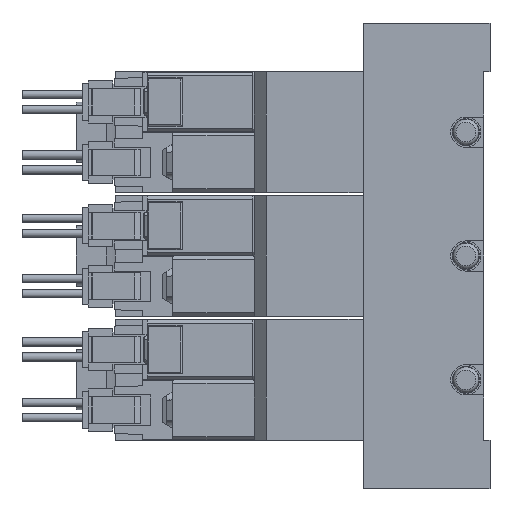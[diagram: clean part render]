
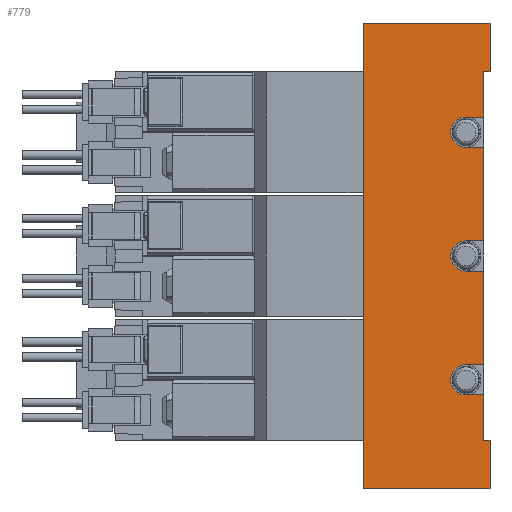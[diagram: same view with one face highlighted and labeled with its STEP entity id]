
A CAD part, left-side view. The second image highlights one B-rep face of the part: STEP entity #779.
In plain terms, the highlighted planar face has unit normal (-1, 0, 0) as drawn and (1, 0, 0) by its records, which use the part's own axes.
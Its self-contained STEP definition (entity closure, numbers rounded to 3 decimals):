
#779=ADVANCED_FACE('',(#1662),#1663,.F.);
#1662=FACE_OUTER_BOUND('',#2643,.T.);
#1663=PLANE('',#2644);
#2643=EDGE_LOOP('',(#5912,#5913,#5914,#5915,#5916,#5917,#5918,#5919,#5920,#5921,#5922,#5923,#5924,#5925,#5926,#5927,#5928,#5929,#5930,#5931));
#2644=AXIS2_PLACEMENT_3D('',#5932,#5933,#5934);
#5912=ORIENTED_EDGE('',*,*,#7305,.T.);
#5913=ORIENTED_EDGE('',*,*,#7306,.T.);
#5914=ORIENTED_EDGE('',*,*,#7307,.F.);
#5915=ORIENTED_EDGE('',*,*,#7308,.F.);
#5916=ORIENTED_EDGE('',*,*,#7309,.T.);
#5917=ORIENTED_EDGE('',*,*,#7294,.T.);
#5918=ORIENTED_EDGE('',*,*,#7310,.T.);
#5919=ORIENTED_EDGE('',*,*,#7311,.F.);
#5920=ORIENTED_EDGE('',*,*,#7267,.F.);
#5921=ORIENTED_EDGE('',*,*,#7312,.F.);
#5922=ORIENTED_EDGE('',*,*,#7313,.T.);
#5923=ORIENTED_EDGE('',*,*,#7314,.F.);
#5924=ORIENTED_EDGE('',*,*,#7315,.F.);
#5925=ORIENTED_EDGE('',*,*,#7316,.F.);
#5926=ORIENTED_EDGE('',*,*,#7317,.T.);
#5927=ORIENTED_EDGE('',*,*,#7269,.F.);
#5928=ORIENTED_EDGE('',*,*,#7318,.F.);
#5929=ORIENTED_EDGE('',*,*,#7319,.F.);
#5930=ORIENTED_EDGE('',*,*,#7320,.T.);
#5931=ORIENTED_EDGE('',*,*,#7321,.T.);
#5932=CARTESIAN_POINT('',(17.5,1.0,38.5));
#5933=DIRECTION('',(-1.0,0.0,0.0));
#5934=DIRECTION('',(0.0,0.0,1.0));
#7267=EDGE_CURVE('',#9011,#9013,#9014,.T.);
#7269=EDGE_CURVE('',#9016,#9017,#9018,.T.);
#7294=EDGE_CURVE('',#9066,#9063,#9067,.T.);
#7305=EDGE_CURVE('',#9086,#9087,#9088,.T.);
#7306=EDGE_CURVE('',#9087,#9089,#9090,.T.);
#7307=EDGE_CURVE('',#9091,#9089,#9092,.T.);
#7308=EDGE_CURVE('',#9093,#9091,#9094,.T.);
#7309=EDGE_CURVE('',#9093,#9066,#9095,.T.);
#7310=EDGE_CURVE('',#9063,#9096,#9097,.T.);
#7311=EDGE_CURVE('',#9013,#9096,#9098,.T.);
#7312=EDGE_CURVE('',#9099,#9011,#9100,.T.);
#7313=EDGE_CURVE('',#9099,#9101,#9102,.T.);
#7314=EDGE_CURVE('',#9103,#9101,#9104,.T.);
#7315=EDGE_CURVE('',#9105,#9103,#9106,.T.);
#7316=EDGE_CURVE('',#9107,#9105,#9108,.T.);
#7317=EDGE_CURVE('',#9107,#9017,#9109,.T.);
#7318=EDGE_CURVE('',#9110,#9016,#9111,.T.);
#7319=EDGE_CURVE('',#9112,#9110,#9113,.T.);
#7320=EDGE_CURVE('',#9112,#9114,#9115,.T.);
#7321=EDGE_CURVE('',#9114,#9086,#9116,.T.);
#9011=VERTEX_POINT('',#11897);
#9013=VERTEX_POINT('',#11900);
#9014=CIRCLE('',#11901,2.5);
#9016=VERTEX_POINT('',#11904);
#9017=VERTEX_POINT('',#11905);
#9018=LINE('',#11906,#11907);
#9063=VERTEX_POINT('',#11962);
#9066=VERTEX_POINT('',#11966);
#9067=LINE('',#11967,#11968);
#9086=VERTEX_POINT('',#12078);
#9087=VERTEX_POINT('',#12079);
#9088=LINE('',#12080,#12081);
#9089=VERTEX_POINT('',#12082);
#9090=LINE('',#12083,#12084);
#9091=VERTEX_POINT('',#12085);
#9092=LINE('',#12086,#12087);
#9093=VERTEX_POINT('',#12088);
#9094=LINE('',#12089,#12090);
#9095=LINE('',#12091,#12092);
#9096=VERTEX_POINT('',#12093);
#9097=LINE('',#12094,#12095);
#9098=LINE('',#12096,#12097);
#9099=VERTEX_POINT('',#12098);
#9100=LINE('',#12099,#12100);
#9101=VERTEX_POINT('',#12101);
#9102=LINE('',#12102,#12103);
#9103=VERTEX_POINT('',#12104);
#9104=LINE('',#12105,#12106);
#9105=VERTEX_POINT('',#12107);
#9106=CIRCLE('',#12108,2.5);
#9107=VERTEX_POINT('',#12109);
#9108=LINE('',#12110,#12111);
#9109=LINE('',#12112,#12113);
#9110=VERTEX_POINT('',#12114);
#9111=CIRCLE('',#12115,2.5);
#9112=VERTEX_POINT('',#12116);
#9113=LINE('',#12117,#12118);
#9114=VERTEX_POINT('',#12119);
#9115=LINE('',#12120,#12121);
#9116=LINE('',#12122,#12123);
#11897=CARTESIAN_POINT('',(17.5,4.0,18.0));
#11900=CARTESIAN_POINT('',(17.5,4.0,23.0));
#11901=AXIS2_PLACEMENT_3D('',#13451,#13452,#13453);
#11904=CARTESIAN_POINT('',(17.5,4.0,-18.0));
#11905=CARTESIAN_POINT('',(17.5,1.0,-18.0));
#11906=CARTESIAN_POINT('',(17.5,1.0,-18.0));
#11907=VECTOR('',#13455,1.0);
#11962=CARTESIAN_POINT('',(17.5,1.0,30.5));
#11966=CARTESIAN_POINT('',(17.5,0.0,30.5));
#11967=CARTESIAN_POINT('',(17.5,0.0,30.5));
#11968=VECTOR('',#13506,1.0);
#12078=CARTESIAN_POINT('',(17.5,0.0,-30.5));
#12079=CARTESIAN_POINT('',(17.5,0.0,-38.5));
#12080=CARTESIAN_POINT('',(17.5,0.0,-30.5));
#12081=VECTOR('',#13525,1.0);
#12082=CARTESIAN_POINT('',(17.5,21.0,-38.5));
#12083=CARTESIAN_POINT('',(17.5,1.0,-38.5));
#12084=VECTOR('',#13526,1.0);
#12085=CARTESIAN_POINT('',(17.5,21.0,38.5));
#12086=CARTESIAN_POINT('',(17.5,21.0,38.5));
#12087=VECTOR('',#13527,1.0);
#12088=CARTESIAN_POINT('',(17.5,0.0,38.5));
#12089=CARTESIAN_POINT('',(17.5,1.0,38.5));
#12090=VECTOR('',#13528,1.0);
#12091=CARTESIAN_POINT('',(17.5,0.0,38.5));
#12092=VECTOR('',#13529,1.0);
#12093=CARTESIAN_POINT('',(17.5,1.0,23.0));
#12094=CARTESIAN_POINT('',(17.5,1.0,38.5));
#12095=VECTOR('',#13530,1.0);
#12096=CARTESIAN_POINT('',(17.5,1.0,23.0));
#12097=VECTOR('',#13531,1.0);
#12098=CARTESIAN_POINT('',(17.5,1.0,18.0));
#12099=CARTESIAN_POINT('',(17.5,1.0,18.0));
#12100=VECTOR('',#13532,1.0);
#12101=CARTESIAN_POINT('',(17.5,1.0,2.5));
#12102=CARTESIAN_POINT('',(17.5,1.0,38.5));
#12103=VECTOR('',#13533,1.0);
#12104=CARTESIAN_POINT('',(17.5,4.0,2.5));
#12105=CARTESIAN_POINT('',(17.5,1.0,2.5));
#12106=VECTOR('',#13534,1.0);
#12107=CARTESIAN_POINT('',(17.5,4.0,-2.5));
#12108=AXIS2_PLACEMENT_3D('',#13535,#13536,#13537);
#12109=CARTESIAN_POINT('',(17.5,1.0,-2.5));
#12110=CARTESIAN_POINT('',(17.5,1.0,-2.5));
#12111=VECTOR('',#13538,1.0);
#12112=CARTESIAN_POINT('',(17.5,1.0,38.5));
#12113=VECTOR('',#13539,1.0);
#12114=CARTESIAN_POINT('',(17.5,4.0,-23.0));
#12115=AXIS2_PLACEMENT_3D('',#13540,#13541,#13542);
#12116=CARTESIAN_POINT('',(17.5,1.0,-23.0));
#12117=CARTESIAN_POINT('',(17.5,1.0,-23.0));
#12118=VECTOR('',#13543,1.0);
#12119=CARTESIAN_POINT('',(17.5,1.0,-30.5));
#12120=CARTESIAN_POINT('',(17.5,1.0,38.5));
#12121=VECTOR('',#13544,1.0);
#12122=CARTESIAN_POINT('',(17.5,4.0,-30.5));
#12123=VECTOR('',#13545,1.0);
#13451=CARTESIAN_POINT('',(17.5,4.0,20.5));
#13452=DIRECTION('',(1.0,0.0,-0.0));
#13453=DIRECTION('',(0.0,0.0,1.0));
#13455=DIRECTION('',(0.0,-1.0,0.0));
#13506=DIRECTION('',(0.0,1.0,0.0));
#13525=DIRECTION('',(0.0,0.0,-1.0));
#13526=DIRECTION('',(0.0,1.0,0.0));
#13527=DIRECTION('',(0.0,0.0,-1.0));
#13528=DIRECTION('',(0.0,1.0,0.0));
#13529=DIRECTION('',(0.0,0.0,-1.0));
#13530=DIRECTION('',(0.0,0.0,-1.0));
#13531=DIRECTION('',(0.0,-1.0,0.0));
#13532=DIRECTION('',(0.0,1.0,0.0));
#13533=DIRECTION('',(0.0,0.0,-1.0));
#13534=DIRECTION('',(0.0,-1.0,0.0));
#13535=CARTESIAN_POINT('',(17.5,4.0,0.0));
#13536=DIRECTION('',(1.0,0.0,-0.0));
#13537=DIRECTION('',(0.0,0.0,1.0));
#13538=DIRECTION('',(0.0,1.0,0.0));
#13539=DIRECTION('',(0.0,0.0,-1.0));
#13540=CARTESIAN_POINT('',(17.5,4.0,-20.5));
#13541=DIRECTION('',(1.0,0.0,-0.0));
#13542=DIRECTION('',(0.0,0.0,1.0));
#13543=DIRECTION('',(0.0,1.0,0.0));
#13544=DIRECTION('',(0.0,0.0,-1.0));
#13545=DIRECTION('',(0.0,-1.0,0.0));
